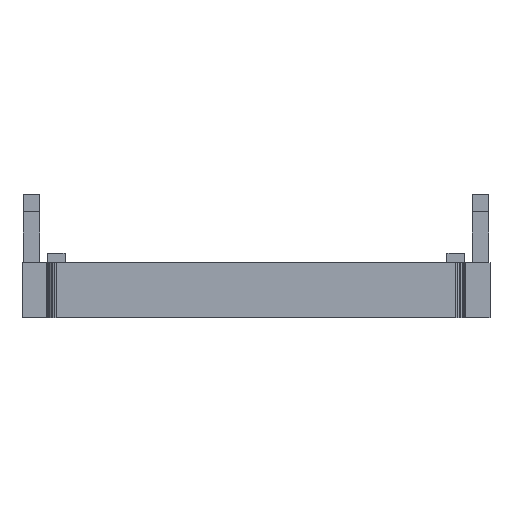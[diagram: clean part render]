
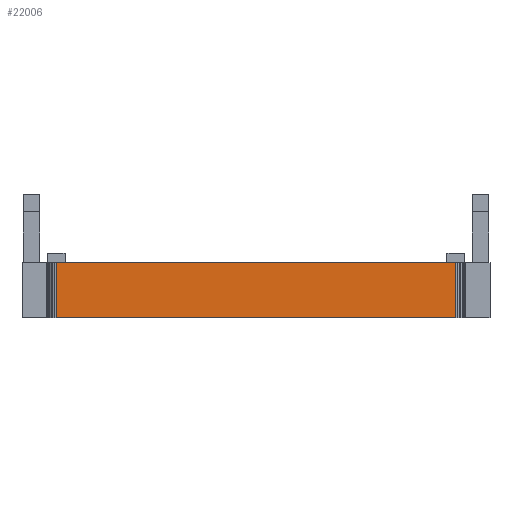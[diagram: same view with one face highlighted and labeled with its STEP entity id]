
A CAD part, left-side view. The second image highlights one B-rep face of the part: STEP entity #22006.
In plain terms, the highlighted planar face has unit normal (-1, 0, 0).
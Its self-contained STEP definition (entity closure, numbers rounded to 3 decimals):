
#72 = PLANE('',#73);
#73 = AXIS2_PLACEMENT_3D('',#74,#75,#76);
#74 = CARTESIAN_POINT('',(0.405,0.,2.));
#75 = DIRECTION('',(-0.,-0.,-1.));
#76 = DIRECTION('',(-1.,0.,0.));
#126 = PLANE('',#127);
#127 = AXIS2_PLACEMENT_3D('',#128,#129,#130);
#128 = CARTESIAN_POINT('',(0.405,0.,
    0.));
#129 = DIRECTION('',(-0.,-0.,-1.));
#130 = DIRECTION('',(-1.,0.,0.));
#459 = VERTEX_POINT('',#460);
#460 = CARTESIAN_POINT('',(-7.3,-7.25,0.));
#474 = PLANE('',#475);
#475 = AXIS2_PLACEMENT_3D('',#476,#477,#478);
#476 = CARTESIAN_POINT('',(-7.293,-7.318,0.));
#477 = DIRECTION('',(-0.995,-0.098,0.));
#478 = DIRECTION('',(-0.098,0.995,0.));
#486 = EDGE_CURVE('',#459,#487,#489,.T.);
#487 = VERTEX_POINT('',#488);
#488 = CARTESIAN_POINT('',(-7.3,7.25,0.));
#489 = SURFACE_CURVE('',#490,(#494,#501),.PCURVE_S1.);
#490 = LINE('',#491,#492);
#491 = CARTESIAN_POINT('',(-7.3,-7.25,0.));
#492 = VECTOR('',#493,1.);
#493 = DIRECTION('',(0.,1.,0.));
#494 = PCURVE('',#126,#495);
#495 = DEFINITIONAL_REPRESENTATION('',(#496),#500);
#496 = LINE('',#497,#498);
#497 = CARTESIAN_POINT('',(7.705,-7.25));
#498 = VECTOR('',#499,1.);
#499 = DIRECTION('',(0.,1.));
#500 = ( GEOMETRIC_REPRESENTATION_CONTEXT(2) 
PARAMETRIC_REPRESENTATION_CONTEXT() REPRESENTATION_CONTEXT('2D SPACE',''
  ) );
#501 = PCURVE('',#502,#507);
#502 = PLANE('',#503);
#503 = AXIS2_PLACEMENT_3D('',#504,#505,#506);
#504 = CARTESIAN_POINT('',(-7.3,-7.25,0.));
#505 = DIRECTION('',(-1.,0.,0.));
#506 = DIRECTION('',(0.,1.,0.));
#507 = DEFINITIONAL_REPRESENTATION('',(#508),#512);
#508 = LINE('',#509,#510);
#509 = CARTESIAN_POINT('',(0.,0.));
#510 = VECTOR('',#511,1.);
#511 = DIRECTION('',(1.,0.));
#512 = ( GEOMETRIC_REPRESENTATION_CONTEXT(2) 
PARAMETRIC_REPRESENTATION_CONTEXT() REPRESENTATION_CONTEXT('2D SPACE',''
  ) );
#530 = PLANE('',#531);
#531 = AXIS2_PLACEMENT_3D('',#532,#533,#534);
#532 = CARTESIAN_POINT('',(-7.3,7.25,0.));
#533 = DIRECTION('',(-0.995,0.098,0.));
#534 = DIRECTION('',(0.098,0.995,0.));
#11478 = VERTEX_POINT('',#11479);
#11479 = CARTESIAN_POINT('',(-7.3,-7.25,2.));
#11500 = EDGE_CURVE('',#11478,#11501,#11503,.T.);
#11501 = VERTEX_POINT('',#11502);
#11502 = CARTESIAN_POINT('',(-7.3,7.25,2.));
#11503 = SURFACE_CURVE('',#11504,(#11508,#11515),.PCURVE_S1.);
#11504 = LINE('',#11505,#11506);
#11505 = CARTESIAN_POINT('',(-7.3,-7.25,2.));
#11506 = VECTOR('',#11507,1.);
#11507 = DIRECTION('',(0.,1.,0.));
#11508 = PCURVE('',#72,#11509);
#11509 = DEFINITIONAL_REPRESENTATION('',(#11510),#11514);
#11510 = LINE('',#11511,#11512);
#11511 = CARTESIAN_POINT('',(7.705,-7.25));
#11512 = VECTOR('',#11513,1.);
#11513 = DIRECTION('',(0.,1.));
#11514 = ( GEOMETRIC_REPRESENTATION_CONTEXT(2) 
PARAMETRIC_REPRESENTATION_CONTEXT() REPRESENTATION_CONTEXT('2D SPACE',''
  ) );
#11515 = PCURVE('',#502,#11516);
#11516 = DEFINITIONAL_REPRESENTATION('',(#11517),#11521);
#11517 = LINE('',#11518,#11519);
#11518 = CARTESIAN_POINT('',(0.,-2.));
#11519 = VECTOR('',#11520,1.);
#11520 = DIRECTION('',(1.,0.));
#11521 = ( GEOMETRIC_REPRESENTATION_CONTEXT(2) 
PARAMETRIC_REPRESENTATION_CONTEXT() REPRESENTATION_CONTEXT('2D SPACE',''
  ) );
#21985 = EDGE_CURVE('',#459,#11478,#21986,.T.);
#21986 = SURFACE_CURVE('',#21987,(#21991,#21998),.PCURVE_S1.);
#21987 = LINE('',#21988,#21989);
#21988 = CARTESIAN_POINT('',(-7.3,-7.25,0.));
#21989 = VECTOR('',#21990,1.);
#21990 = DIRECTION('',(0.,0.,1.));
#21991 = PCURVE('',#474,#21992);
#21992 = DEFINITIONAL_REPRESENTATION('',(#21993),#21997);
#21993 = LINE('',#21994,#21995);
#21994 = CARTESIAN_POINT('',(0.069,0.));
#21995 = VECTOR('',#21996,1.);
#21996 = DIRECTION('',(0.,-1.));
#21997 = ( GEOMETRIC_REPRESENTATION_CONTEXT(2) 
PARAMETRIC_REPRESENTATION_CONTEXT() REPRESENTATION_CONTEXT('2D SPACE',''
  ) );
#21998 = PCURVE('',#502,#21999);
#21999 = DEFINITIONAL_REPRESENTATION('',(#22000),#22004);
#22000 = LINE('',#22001,#22002);
#22001 = CARTESIAN_POINT('',(0.,0.));
#22002 = VECTOR('',#22003,1.);
#22003 = DIRECTION('',(0.,-1.));
#22004 = ( GEOMETRIC_REPRESENTATION_CONTEXT(2) 
PARAMETRIC_REPRESENTATION_CONTEXT() REPRESENTATION_CONTEXT('2D SPACE',''
  ) );
#22006 = ADVANCED_FACE('',(#22007),#502,.T.);
#22007 = FACE_BOUND('',#22008,.T.);
#22008 = EDGE_LOOP('',(#22009,#22010,#22011,#22032));
#22009 = ORIENTED_EDGE('',*,*,#21985,.T.);
#22010 = ORIENTED_EDGE('',*,*,#11500,.T.);
#22011 = ORIENTED_EDGE('',*,*,#22012,.F.);
#22012 = EDGE_CURVE('',#487,#11501,#22013,.T.);
#22013 = SURFACE_CURVE('',#22014,(#22018,#22025),.PCURVE_S1.);
#22014 = LINE('',#22015,#22016);
#22015 = CARTESIAN_POINT('',(-7.3,7.25,0.));
#22016 = VECTOR('',#22017,1.);
#22017 = DIRECTION('',(0.,0.,1.));
#22018 = PCURVE('',#502,#22019);
#22019 = DEFINITIONAL_REPRESENTATION('',(#22020),#22024);
#22020 = LINE('',#22021,#22022);
#22021 = CARTESIAN_POINT('',(14.5,0.));
#22022 = VECTOR('',#22023,1.);
#22023 = DIRECTION('',(0.,-1.));
#22024 = ( GEOMETRIC_REPRESENTATION_CONTEXT(2) 
PARAMETRIC_REPRESENTATION_CONTEXT() REPRESENTATION_CONTEXT('2D SPACE',''
  ) );
#22025 = PCURVE('',#530,#22026);
#22026 = DEFINITIONAL_REPRESENTATION('',(#22027),#22031);
#22027 = LINE('',#22028,#22029);
#22028 = CARTESIAN_POINT('',(0.,0.));
#22029 = VECTOR('',#22030,1.);
#22030 = DIRECTION('',(0.,-1.));
#22031 = ( GEOMETRIC_REPRESENTATION_CONTEXT(2) 
PARAMETRIC_REPRESENTATION_CONTEXT() REPRESENTATION_CONTEXT('2D SPACE',''
  ) );
#22032 = ORIENTED_EDGE('',*,*,#486,.F.);
